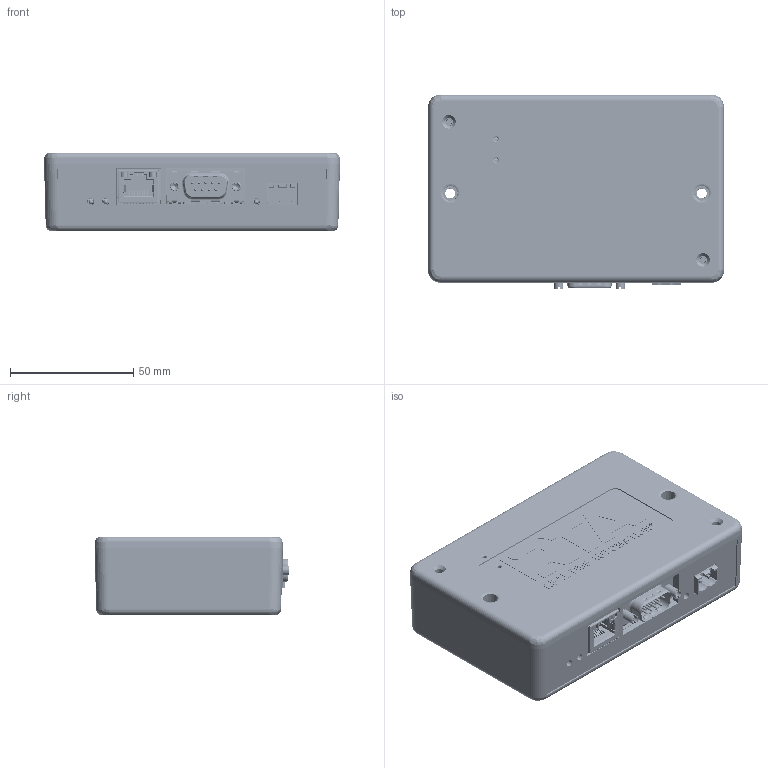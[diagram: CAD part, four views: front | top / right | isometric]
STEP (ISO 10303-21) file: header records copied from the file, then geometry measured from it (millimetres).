
FILE_DESCRIPTION(('Open CASCADE Model'),'2;1');
FILE_NAME('Open CASCADE Shape Model','2026-05-04T11:42:05',('Author'),( 'Open CASCADE'),'Open CASCADE STEP processor 7.8','Open CASCADE 7.8' ,'Unknown');
FILE_SCHEMA(('AUTOMOTIVE_DESIGN { 1 0 10303 214 1 1 1 1 }'));
Length unit declared in the file: millimetre
Products named in the file (4): 4641cd0d-47ae-11f1-92b4-47c5e41dfe65; Bottom_Enclosure; Top_Enclosure; PCB_Assembly
Assembly tree (3 placements, depth 2):
  4641cd0d-47ae-11f1-92b4-47c5e41dfe65
    Bottom_Enclosure
    Top_Enclosure
    PCB_Assembly
Bounding box: 120 x 79 x 32 mm (x, y, z)
Volume: 106790.3 mm3; surface area: 95812.8 mm2
Topology: 837 solids, 1945 shells, 16505 faces, 45010 edges, 31379 vertices
Faces by surface type: plane 9472, cylinder 3056, bspline 3008, sphere 470, revolution 299, cone 95, torus 85, extrusion 20
Full cylindrical faces by diameter (mm): 0.091 x1, 0.199 x1, 0.5 x5, 0.9 x3, 1.5 x1, 1.7 x1, 1.72 x1, 1.86 x1, 2 x3, 2.2 x1, 2.374 x4, 3.58 x3, 6 x2, 6.3 x2, 6.5 x1
Entity records: 1247832 total; most frequent: CARTESIAN_POINT 411509, DIRECTION 143940, VECTOR 98976, LINE 98956, ORIENTED_EDGE 83713, PCURVE 83713, DEFINITIONAL_REPRESENTATION 83713, EDGE_CURVE 44800
